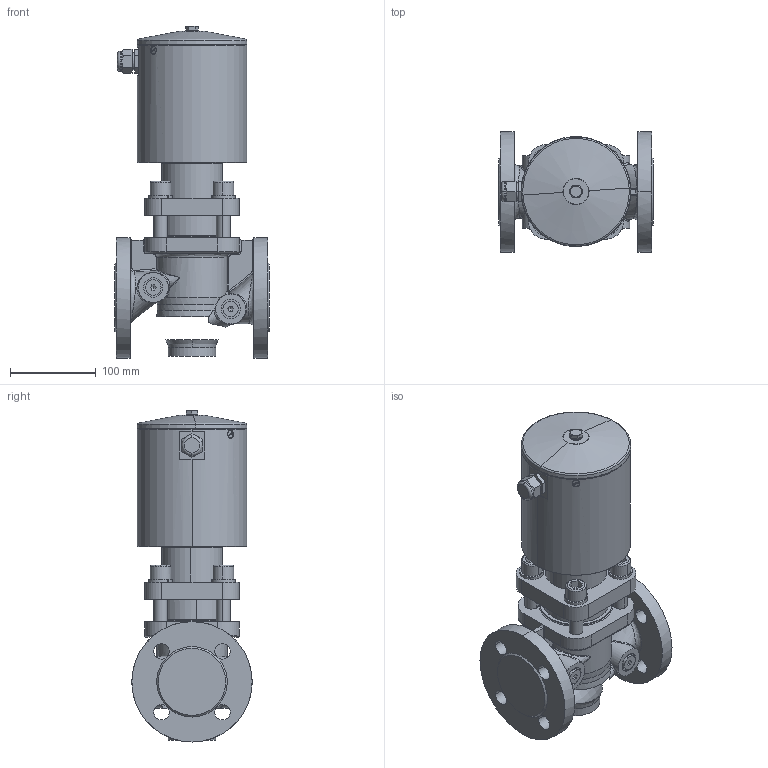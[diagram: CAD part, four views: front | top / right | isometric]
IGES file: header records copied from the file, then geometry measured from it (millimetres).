
Global section: file name: No Iges File Name specified; native system: AutoDesk Inventor R12.0; preprocessor: AutoDesk Inventor Iges Exporter R12.0; date: 20091112.085221; units: millimetre
Bounding box: 180 x 140 x 386.16 mm (x, y, z)
Volume: 3632987.1 mm3; surface area: 290083.6 mm2
Topology: 2 solids, 2 shells, 422 faces, 1129 edges, 718 vertices
Faces by surface type: plane 146, bspline 100, cylinder 86, revolution 36, cone 33, torus 18, sphere 3
